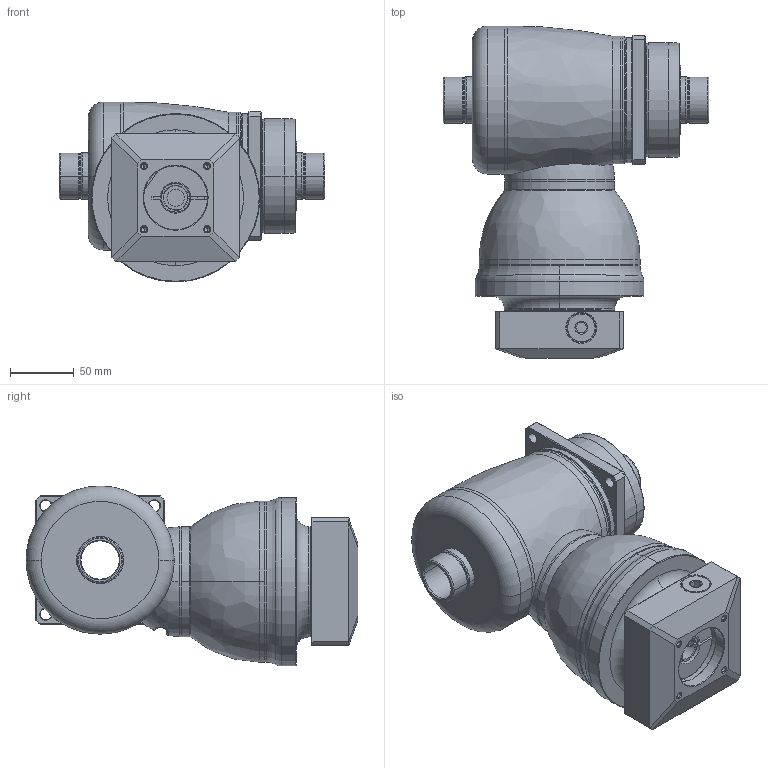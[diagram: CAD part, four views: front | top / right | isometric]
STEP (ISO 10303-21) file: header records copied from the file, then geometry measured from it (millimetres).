
FILE_DESCRIPTION((''),'2;1');
FILE_NAME('KF100_S4_1ST_19-P0409410101_ASM','2016-07-15T',('d01943'),(''),'PRO/ENGINEER BY PARAMETRIC TECHNOLOGY CORPORATION, 2008410','PRO/ENGINEER BY PARAMETRIC TECHNOLOGY CORPORATION, 2008410','');
FILE_SCHEMA(('CONFIG_CONTROL_DESIGN'));
Length unit declared in the file: millimetre
Products named in the file (11): P1008400002; P1804400001; P0914400001; P1315400001; P1007400001; P1318400001; P0409410101; P0503400008; P0912400001; 21711416017; KF100_S4_1ST_19-P0409410101_ASM
Assembly tree (10 placements, depth 2):
  KF100_S4_1ST_19-P0409410101_ASM
    P1008400002
    P1804400001
    P0914400001
    P1315400001
    P1007400001
    P1318400001
    P0409410101
    P0503400008
    P0912400001
    21711416017
Bounding box: 208.3 x 260 x 141 mm (x, y, z)
Volume: 2357948.4 mm3; surface area: 360790.3 mm2
Topology: 11 solids, 11 shells, 505 faces, 1118 edges, 658 vertices
Faces by surface type: cylinder 170, cone 126, plane 101, torus 70, bspline 36, sphere 2
Entity records: 19743 total; most frequent: CARTESIAN_POINT 8395, DIRECTION 2500, ORIENTED_EDGE 2200, EDGE_CURVE 1100, AXIS2_PLACEMENT_3D 1064, VERTEX_POINT 658, EDGE_LOOP 576, CIRCLE 574
